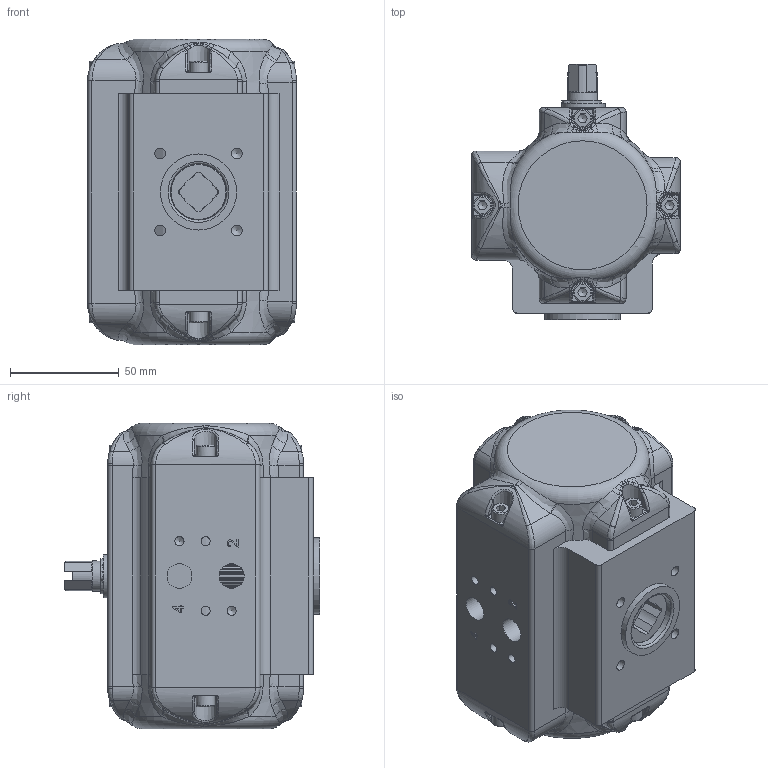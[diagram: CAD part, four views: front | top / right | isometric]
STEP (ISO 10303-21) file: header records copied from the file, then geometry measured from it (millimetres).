
FILE_DESCRIPTION(/* description */ (''),/* implementation_level */ '2;1');
FILE_NAME(/* name */ 'C:\Users\war\Desktop\BR03C_SAD_SAF_10.stp',/* time_stamp */ '2021-03-01T11:47:38+01:00',/* author */ ('war'),/* organization */ (''),/* preprocessor_version */ 'ST-DEVELOPER v18.1',/* originating_system */ 'Autodesk Inventor 2021',/* authorisation */ '');
FILE_SCHEMA (('AUTOMOTIVE_DESIGN { 1 0 10303 214 3 1 1 }'));
Products named in the file (1): ENG-048779_Shrinkwrap_1
Bounding box: 96 x 117.5 x 140.3 mm (x, y, z)
Volume: 529153.1 mm3; surface area: 131913.3 mm2
Topology: 2 solids, 2 shells, 1383 faces, 3652 edges, 2296 vertices
Faces by surface type: bspline 405, cylinder 364, plane 314, torus 170, cone 130
Full cylindrical faces by diameter (mm): 1.7 x2, 4.134 x4, 4.2 x6, 4.917 x5, 5 x2, 8.5 x8, 10 x6, 11.445 x2, 13.5 x1, 13.8 x5, 14 x1, 20 x1, 21 x1, 21.5 x1, 22 x3, 25.8 x3, 26 x2, 35 x1, 63 x1, 66 x2
Entity records: 56820 total; most frequent: CARTESIAN_POINT 23756, ORIENTED_EDGE 7222, DIRECTION 5856, EDGE_CURVE 3611, AXIS2_PLACEMENT_3D 2499, VERTEX_POINT 2296, EDGE_LOOP 1469, CIRCLE 1469
